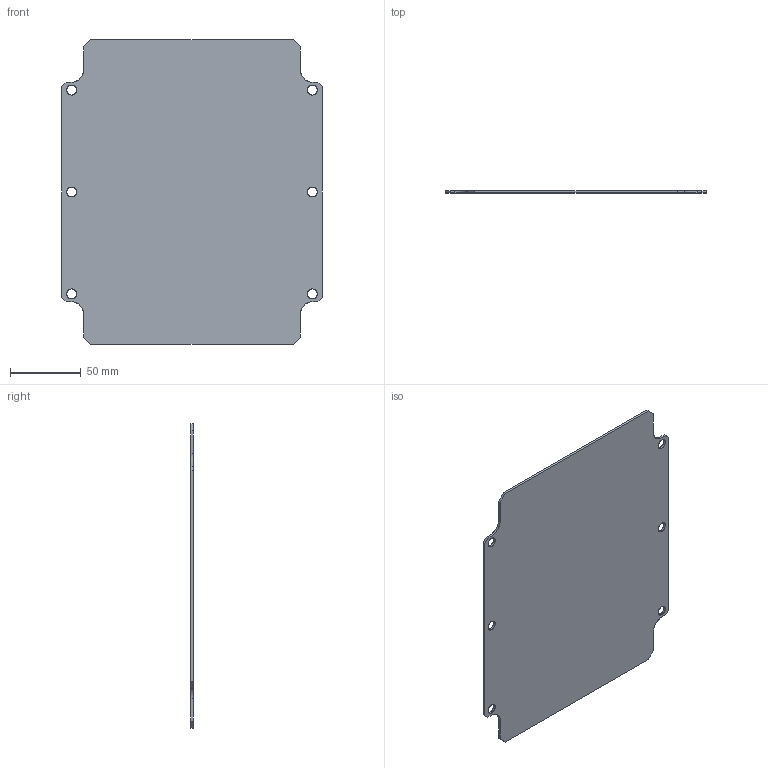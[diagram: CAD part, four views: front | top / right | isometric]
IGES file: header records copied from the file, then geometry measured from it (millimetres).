
Start section: SolidWorks IGES file using analytic representation for surfaces
Global section: file name: G:\3DRAW\EURONORD\3DCAM\Aluminum\Asennuslevyt\AM 2320.IGS; native system: SolidWorks 2009; preprocessor: SolidWorks 2009; author: KennethW; date: 100216.150221; units: millimetre
Bounding box: 184 x 1.5 x 215 mm (x, y, z)
Surface area: 76312.3 mm2 (no closed solid volume)
Topology: 0 solids, 0 shells, 150 faces, 1922 edges, 1922 vertices
Faces by surface type: bspline 78, revolution 72
